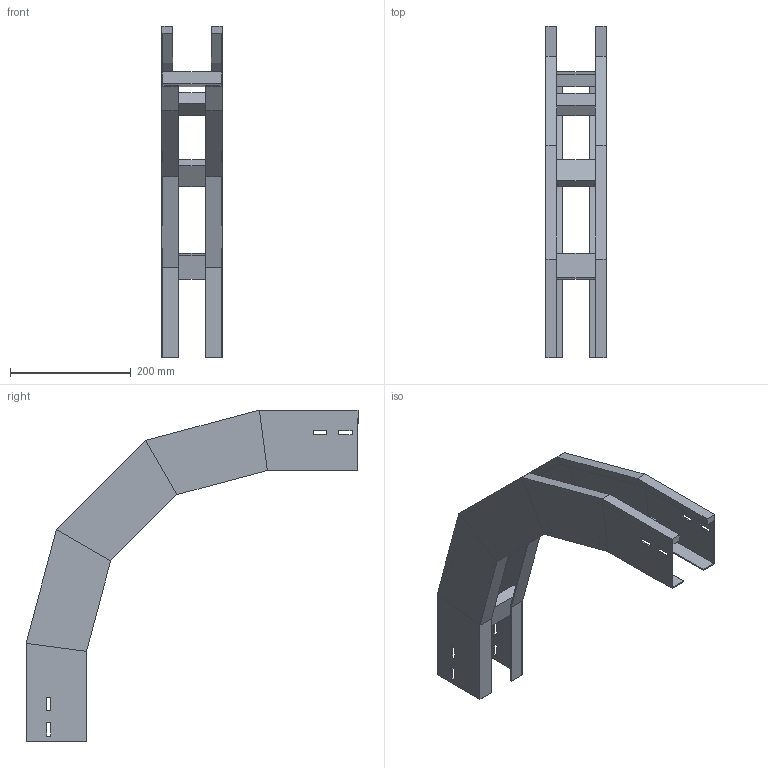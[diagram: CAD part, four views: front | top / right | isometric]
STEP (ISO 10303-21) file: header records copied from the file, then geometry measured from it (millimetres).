
FILE_DESCRIPTION (( 'STEP AP214' ), '1' );
FILE_NAME ('A2_33B3D100.step', '2025-02-21T15:01:43', ( '' ), ( '' ), 'SwSTEP 2.0', 'SolidWorks 2023', '' );
FILE_SCHEMA (( 'AUTOMOTIVE_DESIGN' ));
Length unit declared in the file: millimetre
Products named in the file (3): LONGH.DISCESA_90°_H100_R300; A2_33B3D100; TRAVERSINO_100
Assembly tree (6 placements, depth 2):
  A2_33B3D100
    LONGH.DISCESA_90°_H100_R300  x2
    TRAVERSINO_100  x4
Bounding box: 100 x 549.44 x 549.44 mm (x, y, z)
Volume: 1074660.1 mm3; surface area: 533139.4 mm2
Topology: 6 solids, 6 shells, 140 faces, 320 edges, 192 vertices
Faces by surface type: plane 140
Entity records: 1872 total; most frequent: CARTESIAN_POINT 309, ORIENTED_EDGE 296, DIRECTION 294, VECTOR 148, LINE 148, EDGE_CURVE 148, VERTEX_POINT 88, AXIS2_PLACEMENT_3D 73
